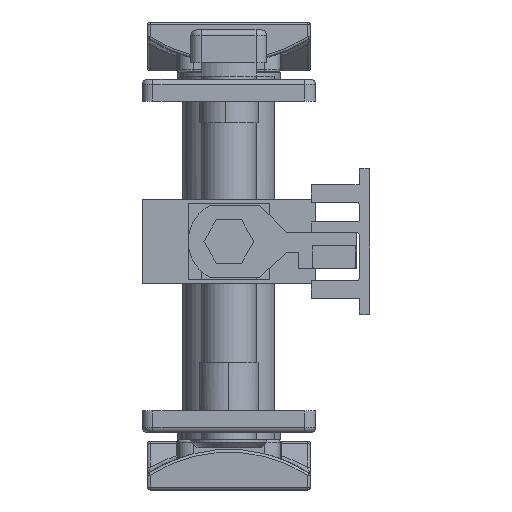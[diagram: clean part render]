
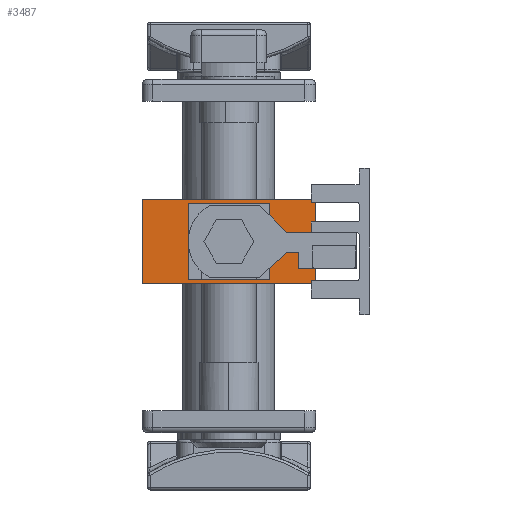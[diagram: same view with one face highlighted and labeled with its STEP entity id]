
A CAD part, front view. The second image highlights one B-rep face of the part: STEP entity #3487.
In plain terms, the highlighted planar face has unit normal (0, -1, 0).
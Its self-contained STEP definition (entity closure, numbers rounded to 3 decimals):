
#214 = DIRECTION ( 'NONE',  ( 1., 0., 0. ) ) ;
#440 = VERTEX_POINT ( 'NONE', #2081 ) ;
#1518 = AXIS2_PLACEMENT_3D ( 'NONE', #29289, #8221, #10947 ) ;
#1771 = EDGE_CURVE ( 'NONE', #13261, #2548, #33337, .T. ) ;
#2081 = CARTESIAN_POINT ( 'NONE',  ( 16., -199.25, 7.75 ) ) ;
#2290 = CARTESIAN_POINT ( 'NONE',  ( -7., -199.25, -6.25 ) ) ;
#2548 = VERTEX_POINT ( 'NONE', #19126 ) ;
#3487 = ADVANCED_FACE ( 'NONE', ( #11287, #21126 ), #31487, .F. ) ;
#4381 = CARTESIAN_POINT ( 'NONE',  ( 7., -199.25, 6.25 ) ) ;
#4727 = DIRECTION ( 'NONE',  ( 0., 0., 1. ) ) ;
#5365 = ORIENTED_EDGE ( 'NONE', *, *, #17555, .T. ) ;
#5975 = DIRECTION ( 'NONE',  ( 0., 0., -1. ) ) ;
#6066 = CARTESIAN_POINT ( 'NONE',  ( -16., -199.25, 7.75 ) ) ;
#7185 = VECTOR ( 'NONE', #4727, 1000. ) ;
#7937 = CARTESIAN_POINT ( 'NONE',  ( -16., -199.25, -7.75 ) ) ;
#8221 = DIRECTION ( 'NONE',  ( 0., 1., 0. ) ) ;
#8258 = ORIENTED_EDGE ( 'NONE', *, *, #1771, .T. ) ;
#8352 = LINE ( 'NONE', #16175, #8464 ) ;
#8391 = VERTEX_POINT ( 'NONE', #2290 ) ;
#8464 = VECTOR ( 'NONE', #5975, 1000. ) ;
#8613 = LINE ( 'NONE', #6066, #29445 ) ;
#9120 = DIRECTION ( 'NONE',  ( 1., 0., 0. ) ) ;
#9380 = VECTOR ( 'NONE', #9698, 1000. ) ;
#9690 = ORIENTED_EDGE ( 'NONE', *, *, #14299, .F. ) ;
#9698 = DIRECTION ( 'NONE',  ( 1., 0., 0. ) ) ;
#10929 = CARTESIAN_POINT ( 'NONE',  ( 7., -199.25, 6.25 ) ) ;
#10947 = DIRECTION ( 'NONE',  ( 0., 0., 1. ) ) ;
#11014 = ORIENTED_EDGE ( 'NONE', *, *, #29582, .F. ) ;
#11287 = FACE_BOUND ( 'NONE', #11522, .T. ) ;
#11522 = EDGE_LOOP ( 'NONE', ( #12650, #11014, #9690, #29439 ) ) ;
#11888 = LINE ( 'NONE', #32077, #17517 ) ;
#12650 = ORIENTED_EDGE ( 'NONE', *, *, #29412, .F. ) ;
#12956 = ORIENTED_EDGE ( 'NONE', *, *, #12962, .F. ) ;
#12962 = EDGE_CURVE ( 'NONE', #440, #2548, #11888, .T. ) ;
#12988 = LINE ( 'NONE', #18390, #25158 ) ;
#13261 = VERTEX_POINT ( 'NONE', #7937 ) ;
#13790 = VECTOR ( 'NONE', #26388, 1000. ) ;
#13814 = LINE ( 'NONE', #10929, #13790 ) ;
#14299 = EDGE_CURVE ( 'NONE', #30449, #19197, #25293, .T. ) ;
#14590 = EDGE_CURVE ( 'NONE', #23030, #440, #8613, .T. ) ;
#14867 = EDGE_CURVE ( 'NONE', #8391, #30449, #30601, .T. ) ;
#16175 = CARTESIAN_POINT ( 'NONE',  ( -16., -199.25, 7.75 ) ) ;
#17517 = VECTOR ( 'NONE', #29721, 1000. ) ;
#17555 = EDGE_CURVE ( 'NONE', #23030, #13261, #8352, .T. ) ;
#17700 = VECTOR ( 'NONE', #214, 1000. ) ;
#18390 = CARTESIAN_POINT ( 'NONE',  ( -7., -199.25, -6.25 ) ) ;
#18938 = CARTESIAN_POINT ( 'NONE',  ( -7., -199.25, 6.25 ) ) ;
#19113 = ORIENTED_EDGE ( 'NONE', *, *, #14590, .F. ) ;
#19126 = CARTESIAN_POINT ( 'NONE',  ( 16., -199.25, -7.75 ) ) ;
#19197 = VERTEX_POINT ( 'NONE', #29207 ) ;
#20058 = CARTESIAN_POINT ( 'NONE',  ( -7., -199.25, -6.25 ) ) ;
#21126 = FACE_OUTER_BOUND ( 'NONE', #27479, .T. ) ;
#23030 = VERTEX_POINT ( 'NONE', #29821 ) ;
#23572 = CARTESIAN_POINT ( 'NONE',  ( 7., -199.25, -6.25 ) ) ;
#25158 = VECTOR ( 'NONE', #28424, 1000. ) ;
#25293 = LINE ( 'NONE', #4381, #7185 ) ;
#26388 = DIRECTION ( 'NONE',  ( -1., 0., 0. ) ) ;
#27479 = EDGE_LOOP ( 'NONE', ( #8258, #12956, #19113, #5365 ) ) ;
#28424 = DIRECTION ( 'NONE',  ( 0., 0., -1. ) ) ;
#29207 = CARTESIAN_POINT ( 'NONE',  ( 7., -199.25, 6.25 ) ) ;
#29289 = CARTESIAN_POINT ( 'NONE',  ( -16., -199.25, 7.75 ) ) ;
#29412 = EDGE_CURVE ( 'NONE', #31818, #8391, #12988, .T. ) ;
#29439 = ORIENTED_EDGE ( 'NONE', *, *, #14867, .F. ) ;
#29445 = VECTOR ( 'NONE', #9120, 1000. ) ;
#29582 = EDGE_CURVE ( 'NONE', #19197, #31818, #13814, .T. ) ;
#29721 = DIRECTION ( 'NONE',  ( 0., 0., -1. ) ) ;
#29821 = CARTESIAN_POINT ( 'NONE',  ( -16., -199.25, 7.75 ) ) ;
#30449 = VERTEX_POINT ( 'NONE', #23572 ) ;
#30601 = LINE ( 'NONE', #20058, #9380 ) ;
#30794 = CARTESIAN_POINT ( 'NONE',  ( -16., -199.25, -7.75 ) ) ;
#31487 = PLANE ( 'NONE',  #1518 ) ;
#31818 = VERTEX_POINT ( 'NONE', #18938 ) ;
#32077 = CARTESIAN_POINT ( 'NONE',  ( 16., -199.25, 7.75 ) ) ;
#33337 = LINE ( 'NONE', #30794, #17700 ) ;
